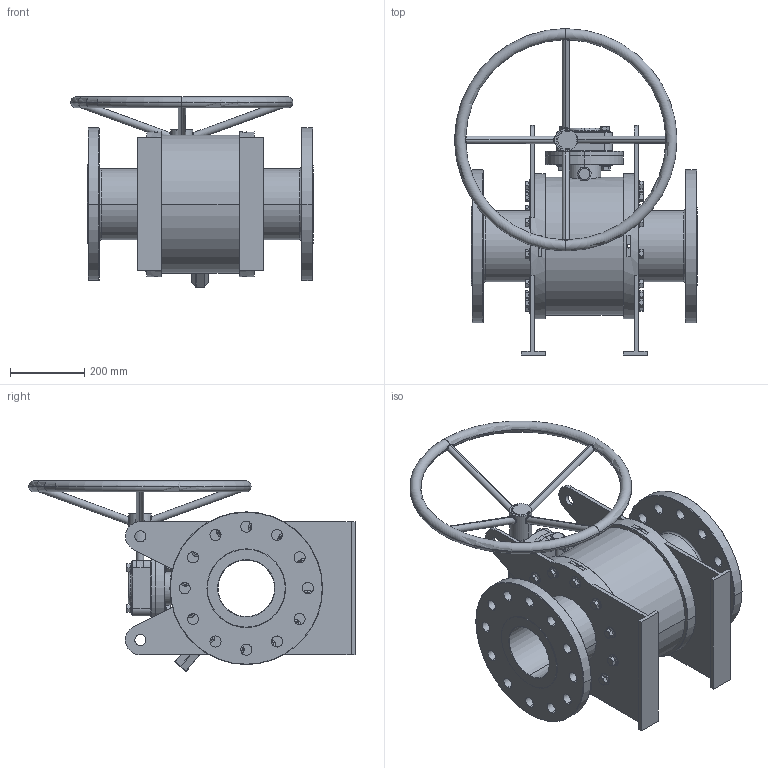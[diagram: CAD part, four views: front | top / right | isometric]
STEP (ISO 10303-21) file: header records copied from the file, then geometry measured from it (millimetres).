
FILE_DESCRIPTION (( 'STEP AP203' ), '1' );
FILE_NAME ('GB2_ANSI_900_6IN_HD.STEP', '2025-10-09T15:00:40', ( '' ), ( '' ), 'SwSTEP 2.0', 'SolidWorks 2025', '' );
FILE_SCHEMA (( 'CONFIG_CONTROL_DESIGN' ));
Length unit declared in the file: millimetre
Products named in the file (3): hex flange screw_am_B18.2.3.4M - Hex flange screw, M16 x 2.0 x 25 --25N; GB2_ANSI_2500_1500_ANSI_900_6IN; GB2_ANSI_900_6IN_HD
Assembly tree (33 placements, depth 2):
  GB2_ANSI_900_6IN_HD
    GB2_ANSI_2500_1500_ANSI_900_6IN
    hex flange screw_am_B18.2.3.4M - Hex flange screw, M16 x 2.0 x 25 --25N  x32
Bounding box: 655 x 881 x 514.01 mm (x, y, z)
Volume: 43546052.5 mm3; surface area: 2614472.5 mm2
Topology: 34 solids, 34 shells, 1487 faces, 3389 edges, 2048 vertices
Faces by surface type: plane 492, cone 352, cylinder 284, bspline 265, torus 88, sphere 6
Entity records: 27041 total; most frequent: CARTESIAN_POINT 11860, ORIENTED_EDGE 2926, DIRECTION 2876, EDGE_CURVE 1463, AXIS2_PLACEMENT_3D 1097, VERTEX_POINT 930, EDGE_LOOP 723, VECTOR 682
